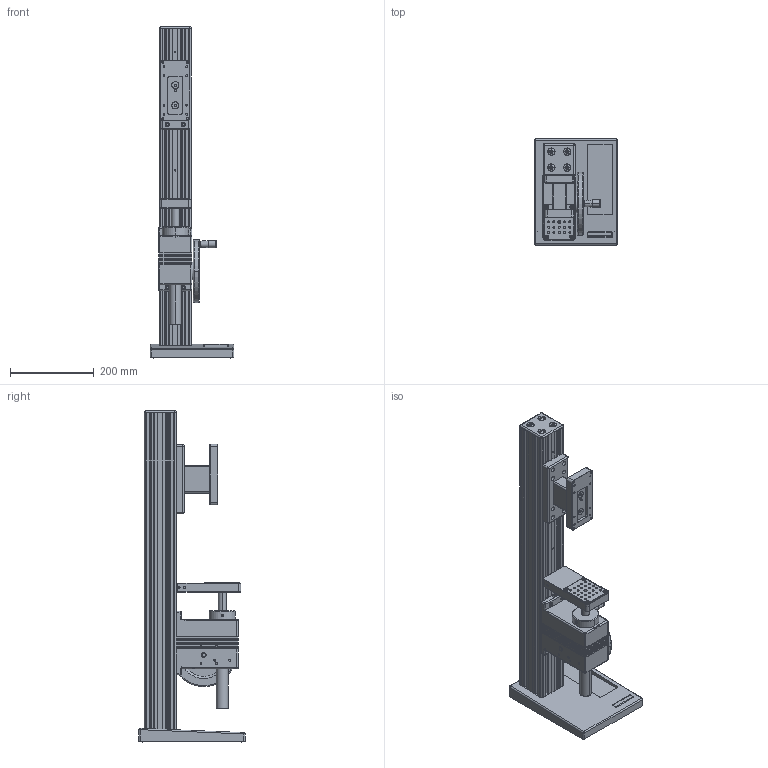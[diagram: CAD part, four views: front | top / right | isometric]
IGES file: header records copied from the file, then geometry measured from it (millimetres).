
Global section: file name: No Iges File Name specified; native system: Autodesk Inventor 2010; preprocessor: AutoDesk Inventor Iges Exporter R2010; author: mlampen; date: 20170621.151616; units: inch
Bounding box: 200.66 x 254 x 794.72 mm (x, y, z)
Volume: 5485896.1 mm3; surface area: 1110554.4 mm2
Topology: 27 solids, 27 shells, 2145 faces, 5552 edges, 3492 vertices
Faces by surface type: plane 815, revolution 614, cylinder 343, cone 220, bspline 94, sphere 43, torus 16
Full cylindrical faces by diameter (mm): 2.474 x30, 3.505 x10
